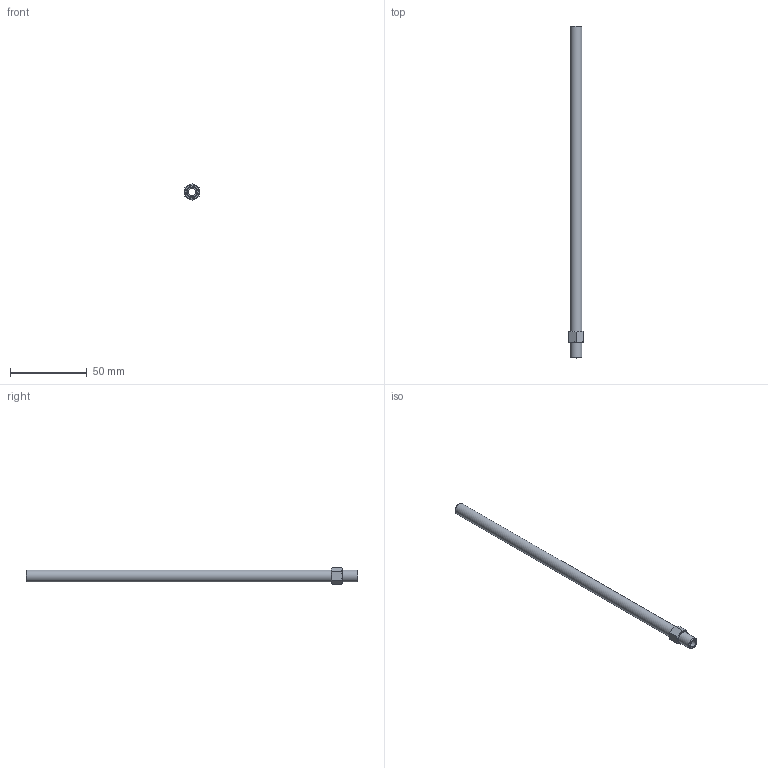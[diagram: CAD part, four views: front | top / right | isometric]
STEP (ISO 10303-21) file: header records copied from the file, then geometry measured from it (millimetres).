
FILE_DESCRIPTION(/* description */ (''),/* implementation_level */ '2;1');
FILE_NAME(/* name */ 'C:/Users/drich/Desktop/APN16-8-1_2 v1.step',/* time_stamp */ '2019-12-27T17:49:43-06:00',/* author */ (''),/* organization */ (''),/* preprocessor_version */ 'ST-DEVELOPER v18',/* originating_system */ 'Autodesk Translation Framework v8.12.0.6',/* authorisation */ '');
FILE_SCHEMA (('AUTOMOTIVE_DESIGN { 1 0 10303 214 3 1 1 }'));
Length unit declared in the file: inch
Products named in the file (1): APN16-8-1_2
Bounding box: 9.5 x 215.9 x 10.97 mm (x, y, z)
Volume: 6274.6 mm3; surface area: 8523.7 mm2
Topology: 1 solids, 1 shells, 17 faces, 39 edges, 26 vertices
Faces by surface type: plane 10, cone 4, cylinder 3
Full cylindrical faces by diameter (mm): 4.724 x1, 7.616 x2
Entity records: 521 total; most frequent: CARTESIAN_POINT 107, ORIENTED_EDGE 78, DIRECTION 77, EDGE_CURVE 39, AXIS2_PLACEMENT_3D 32, VERTEX_POINT 26, EDGE_LOOP 21, FACE_OUTER_BOUND 17
